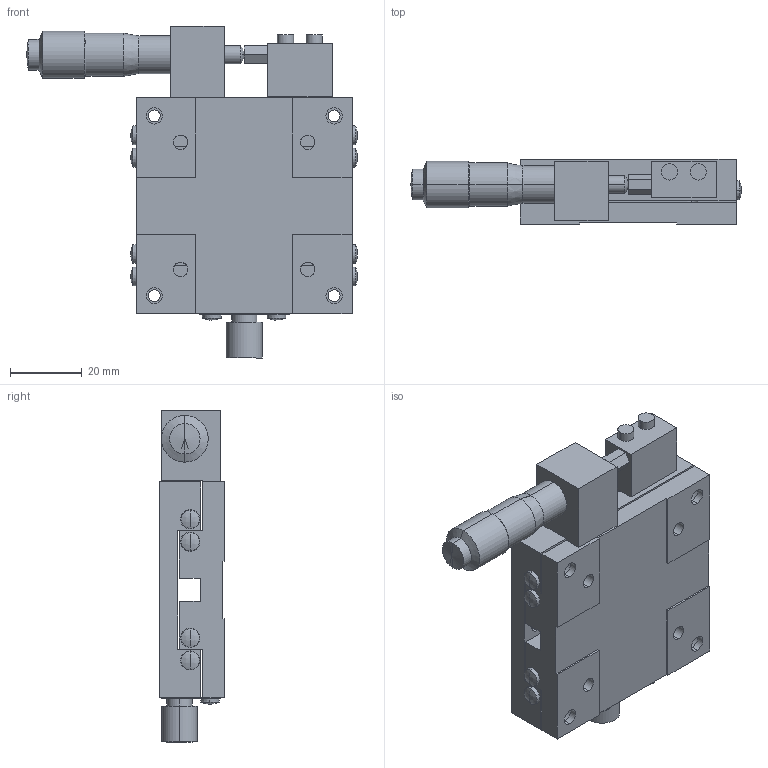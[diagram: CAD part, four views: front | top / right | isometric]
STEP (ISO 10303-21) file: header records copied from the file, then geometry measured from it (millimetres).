
FILE_DESCRIPTION (( 'STEP AP203' ), '1' );
FILE_NAME ('LS-648-R1.STEP', '2008-01-11T06:18:36', ( '' ), ( '' ), 'SwSTEP 2.0', 'SolidWorks 2007', '' );
FILE_SCHEMA (( 'CONFIG_CONTROL_DESIGN' ));
Length unit declared in the file: millimetre
Products named in the file (3): LS-648-R1; LS-648-R1-1_蹬怮椔; LS-648-R1-2_蹬怮椔
Assembly tree (2 placements, depth 2):
  LS-648-R1
    LS-648-R1-1_蹬怮椔
    LS-648-R1-2_蹬怮椔
Bounding box: 92 x 18 x 92.3 mm (x, y, z)
Volume: 68831.7 mm3; surface area: 29731 mm2
Topology: 3 solids, 3 shells, 220 faces, 541 edges, 352 vertices
Faces by surface type: plane 87, cylinder 85, cone 28, sphere 18, bspline 2
Entity records: 7316 total; most frequent: CARTESIAN_POINT 1526, DIRECTION 1215, ORIENTED_EDGE 1078, EDGE_CURVE 539, AXIS2_PLACEMENT_3D 457, VERTEX_POINT 352, VECTOR 301, LINE 301
